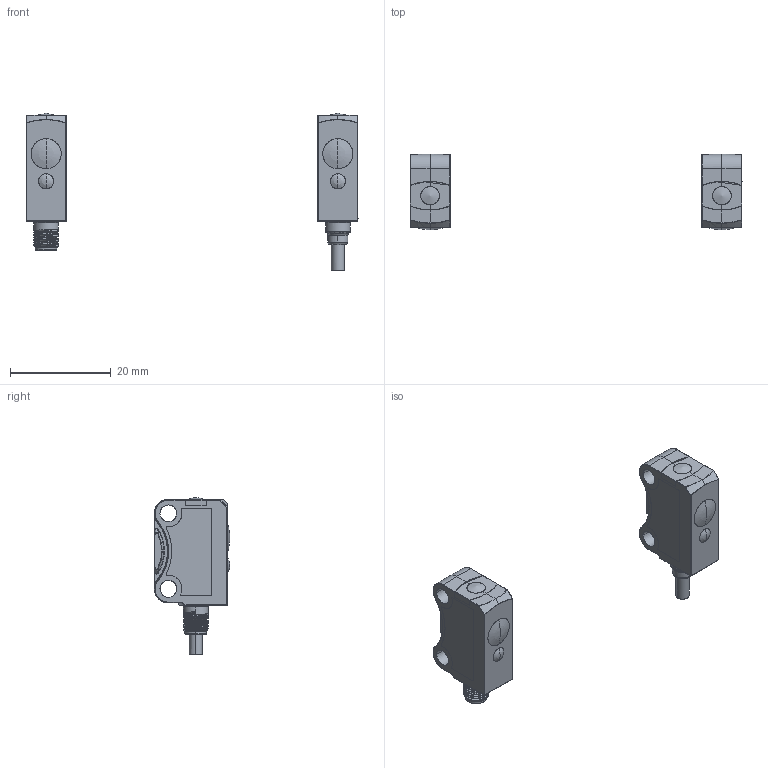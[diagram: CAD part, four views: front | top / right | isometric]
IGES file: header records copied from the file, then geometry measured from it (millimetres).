
Global section: file name: H:\F10\PDF aktuell\15300905_F10.igs; native system: AutoCAD-17.2s (LMS Tech) (Microsoft Windows NT Version 5.1 (x86)); preprocessor: Autodesk IGES Translator Mechanical Desktop 2009 (Jun 25 2008) from Autodesk, Inc.; date: 20110512.104411; units: millimetre
Bounding box: 66 x 15 x 31.3 mm (x, y, z)
Surface area: 2910.3 mm2 (no closed solid volume)
Topology: 0 solids, 0 shells, 1231 faces, 12899 edges, 12858 vertices
Faces by surface type: bspline 1231
